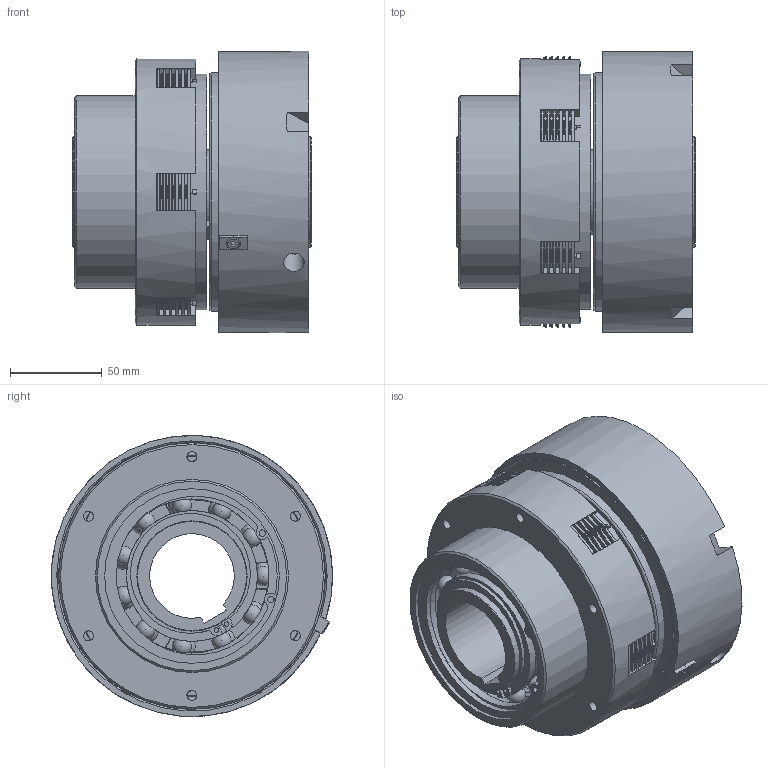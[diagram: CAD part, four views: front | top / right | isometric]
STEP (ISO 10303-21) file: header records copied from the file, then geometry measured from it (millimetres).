
FILE_DESCRIPTION((''),'2;1');
FILE_NAME('\\Srv-tecnico\dati\IVAN\ARCHIVIO INVENTOR\DISEGNI\Matteo\03_Friz_Oleodinamiche e Pneumatiche_Cilindro_Statico\03_06 LPR\03_06_006_01 LPR06\03_06_006_01 LPR06.stp','2010-09-10T15:34:03',('ivan'),(''),'Autodesk Inventor 2010','Autodesk Inventor 2010','');
FILE_SCHEMA(('AUTOMOTIVE_DESIGN { 1 0 10303 214 1 1 1 1 }'));
Length unit declared in the file: millimetre
Products named in the file (1): 03_06_006_01 LPR06_Sostituto_1
Bounding box: 130 x 152.92 x 153 mm (x, y, z)
Surface area: 306851.5 mm2 (no closed solid volume)
Topology: 0 solids, 76 shells, 340 faces, 1621 edges, 1208 vertices
Faces by surface type: plane 112, cylinder 89, torus 51, bspline 49, sphere 33, cone 6
Full cylindrical faces by diameter (mm): 2 x6, 3.5 x2, 11.445 x1, 57 x2, 60 x2, 71.2 x2, 83.8 x5, 85 x2, 95 x2, 98.5 x1, 105 x1, 128 x1, 128.5 x5, 130 x1, 145 x1, 153 x1
Entity records: 29666 total; most frequent: CARTESIAN_POINT 17323, DIRECTION 2347, ORIENTED_EDGE 2036, EDGE_CURVE 1437, VERTEX_POINT 1114, AXIS2_PLACEMENT_3D 937, CIRCLE 636, EDGE_LOOP 558
